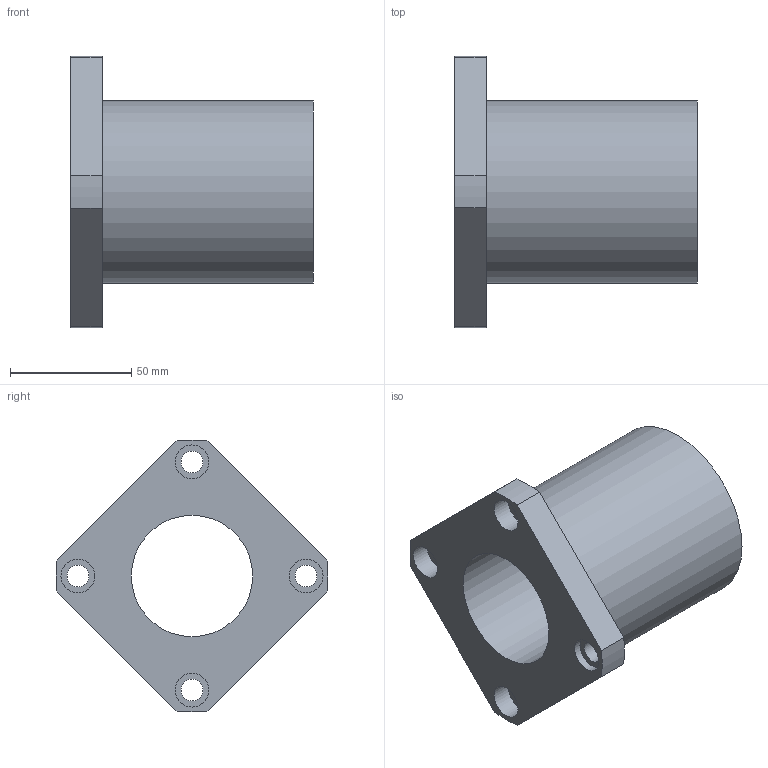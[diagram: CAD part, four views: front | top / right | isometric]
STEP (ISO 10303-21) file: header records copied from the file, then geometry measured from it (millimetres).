
FILE_DESCRIPTION( ( 'STEP AP203' ), '1' );
FILE_NAME( 'p:/temp/worker_3/temp/exporttempdir_1876_843_jqZJW/format_0/LMEK50UU.stp', '2020-05-07T05:47:39', ( 'License CC BY-ND 4.0' ), ( 'CADENAS' ), ' ', 'PARTsolutions', ' ' );
FILE_SCHEMA( ( 'CONFIG_CONTROL_DESIGN' ) );
Length unit declared in the file: millimetre
Products named in the file (1): _LMEK50UU
Bounding box: 100 x 111.91 x 111.91 mm (x, y, z)
Volume: 280796.6 mm3; surface area: 53129.5 mm2
Topology: 1 solids, 1 shells, 25 faces, 55 edges, 37 vertices
Faces by surface type: cylinder 14, plane 11
Full cylindrical faces by diameter (mm): 9 x4, 14 x4, 50 x1, 75 x1
Entity records: 710 total; most frequent: DIRECTION 124, CARTESIAN_POINT 106, ORIENTED_EDGE 88, AXIS2_PLACEMENT_3D 54, EDGE_LOOP 50, EDGE_CURVE 44, VERTEX_POINT 36, FACE_OUTER_BOUND 35
